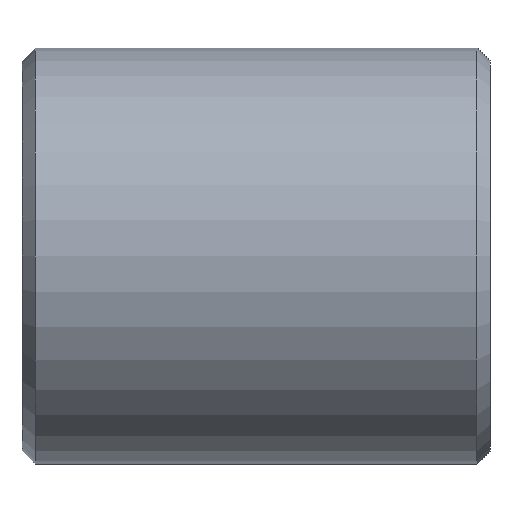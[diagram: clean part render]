
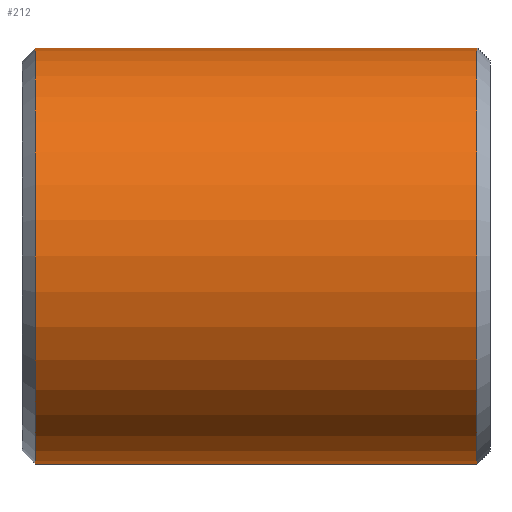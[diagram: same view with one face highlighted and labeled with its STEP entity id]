
A CAD part, front view. The second image highlights one B-rep face of the part: STEP entity #212.
In plain terms, the highlighted cylindrical face has radius 8 mm (diameter 16 mm), a partial arc.
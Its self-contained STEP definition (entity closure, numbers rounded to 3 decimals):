
#4 = EDGE_LOOP ( 'NONE', ( #26, #22, #23, #21 ) ) ;
#21 = ORIENTED_EDGE ( 'NONE', *, *, #210, .T. ) ;
#22 = ORIENTED_EDGE ( 'NONE', *, *, #209, .T. ) ;
#23 = ORIENTED_EDGE ( 'NONE', *, *, #202, .T. ) ;
#26 = ORIENTED_EDGE ( 'NONE', *, *, #201, .F. ) ;
#51 = VERTEX_POINT ( 'NONE', #344 ) ;
#54 = VERTEX_POINT ( 'NONE', #347 ) ;
#55 = VERTEX_POINT ( 'NONE', #348 ) ;
#59 = VERTEX_POINT ( 'NONE', #268 ) ;
#62 = CYLINDRICAL_SURFACE ( 'NONE', #153, 8. ) ;
#67 = LINE ( 'NONE', #342, #171 ) ;
#68 = LINE ( 'NONE', #328, #169 ) ;
#84 = FACE_OUTER_BOUND ( 'NONE', #4, .T. ) ;
#153 = AXIS2_PLACEMENT_3D ( 'NONE', #291, #290, #289 ) ;
#154 = AXIS2_PLACEMENT_3D ( 'NONE', #299, #298, #297 ) ;
#156 = AXIS2_PLACEMENT_3D ( 'NONE', #303, #302, #301 ) ;
#161 = CIRCLE ( 'NONE', #154, 8. ) ;
#165 = CIRCLE ( 'NONE', #156, 8. ) ;
#169 = VECTOR ( 'NONE', #330, 1000. ) ;
#171 = VECTOR ( 'NONE', #340, 1000. ) ;
#201 = EDGE_CURVE ( 'NONE', #59, #55, #67, .T. ) ;
#202 = EDGE_CURVE ( 'NONE', #51, #54, #68, .T. ) ;
#209 = EDGE_CURVE ( 'NONE', #59, #51, #165, .T. ) ;
#210 = EDGE_CURVE ( 'NONE', #54, #55, #161, .T. ) ;
#212 = ADVANCED_FACE ( 'NONE', ( #84 ), #62, .T. ) ;
#268 = CARTESIAN_POINT ( 'NONE',  ( 17.5, 0., -8. ) ) ;
#289 = DIRECTION ( 'NONE',  ( 0., 0., 1. ) ) ;
#290 = DIRECTION ( 'NONE',  ( -1., 0., 0. ) ) ;
#291 = CARTESIAN_POINT ( 'NONE',  ( 18., 0., 0. ) ) ;
#297 = DIRECTION ( 'NONE',  ( 0., 0., -1. ) ) ;
#298 = DIRECTION ( 'NONE',  ( 1., 0., 0. ) ) ;
#299 = CARTESIAN_POINT ( 'NONE',  ( 0.5, 0., 0. ) ) ;
#301 = DIRECTION ( 'NONE',  ( 0., 0., -1. ) ) ;
#302 = DIRECTION ( 'NONE',  ( -1., 0., 0. ) ) ;
#303 = CARTESIAN_POINT ( 'NONE',  ( 17.5, 0., 0. ) ) ;
#328 = CARTESIAN_POINT ( 'NONE',  ( 18., 0., 8. ) ) ;
#330 = DIRECTION ( 'NONE',  ( -1., 0., 0. ) ) ;
#340 = DIRECTION ( 'NONE',  ( -1., 0., 0. ) ) ;
#342 = CARTESIAN_POINT ( 'NONE',  ( 18., 0., -8. ) ) ;
#344 = CARTESIAN_POINT ( 'NONE',  ( 17.5, 0., 8. ) ) ;
#347 = CARTESIAN_POINT ( 'NONE',  ( 0.5, 0., 8. ) ) ;
#348 = CARTESIAN_POINT ( 'NONE',  ( 0.5, 0., -8. ) ) ;
